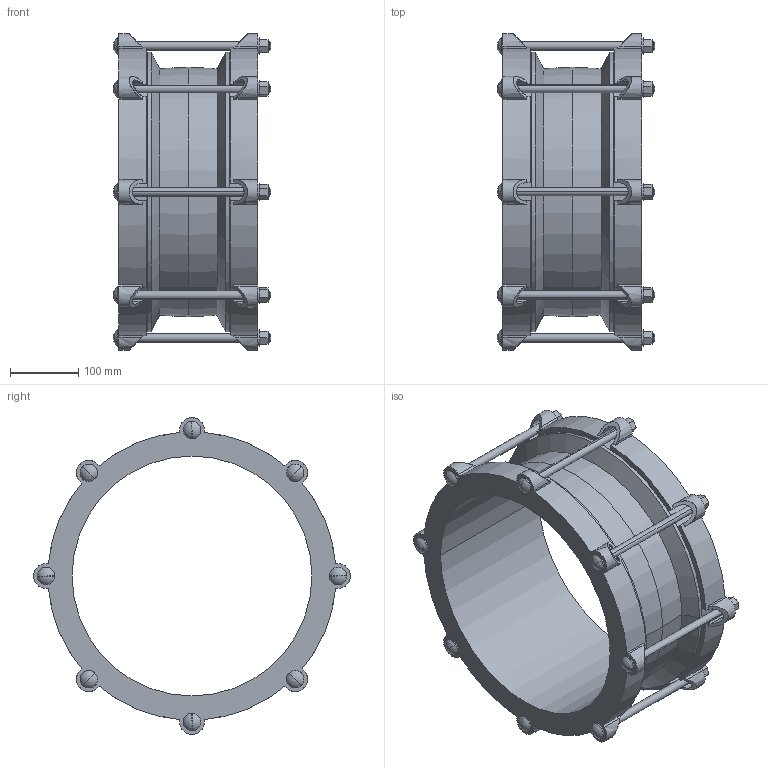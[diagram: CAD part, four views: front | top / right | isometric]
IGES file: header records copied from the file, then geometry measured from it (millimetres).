
Start section:  PTC IGES file: MAXIFIT_315-349.igs
Global section: file name: MAXIFIT_315-349.igs; native system: Creo Parametric by PTC Inc.; preprocessor: 2016130; author: MReader; organization: Unknown; date: 20180907.113047; units: millimetre
Bounding box: 230.33 x 462.5 x 462.5 mm (x, y, z)
Surface area: 759871.4 mm2 (no closed solid volume)
Topology: 0 solids, 0 shells, 374 faces, 2008 edges, 1976 vertices
Faces by surface type: bspline 196, revolution 178
